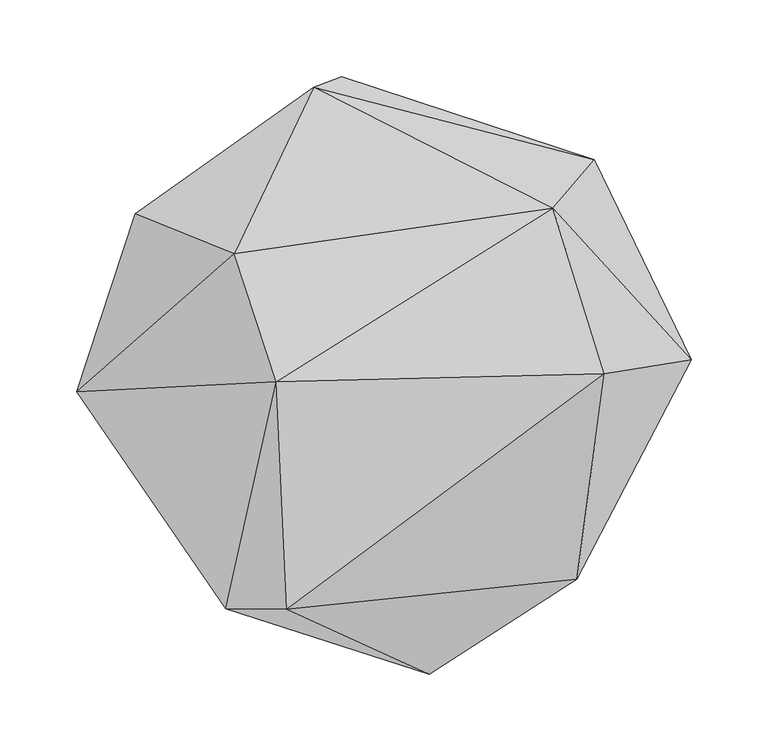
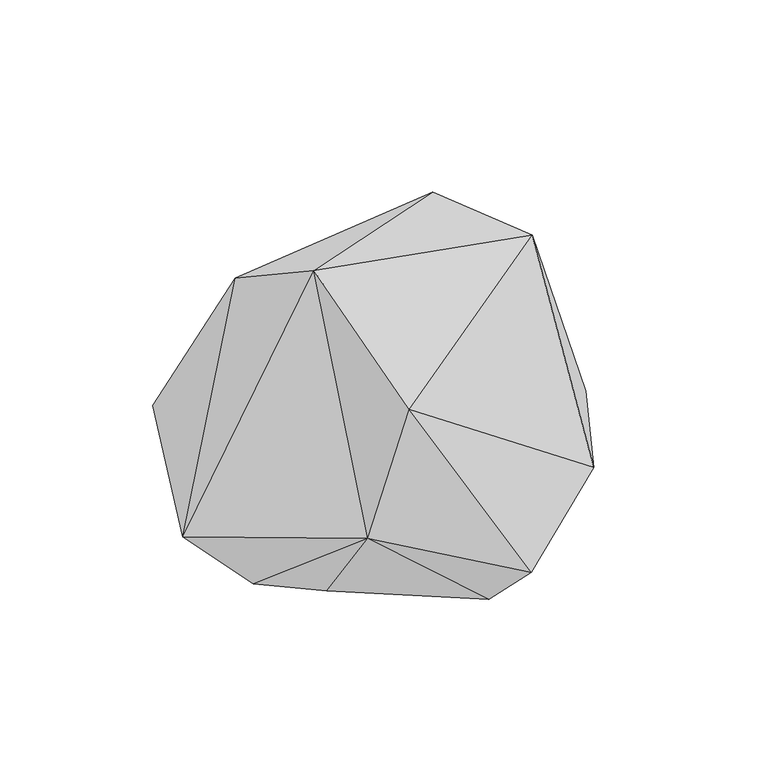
"""IFC4 building model written with IfcOpenShell, lengths in millimetres: geographic element geometry, Enscape AssetDefinition - Flower 086 Cross-leaved Heath : Enscape AssetDefinition - Flower 086 Cross-leaved Heath."""

import ifcopenshell
import ifcopenshell.guid

model = None  # the IFC model being written
_history = None  # IfcOwnerHistory: only IFC2X3 demands one
_inside = {}  # id of a spatial element -> (the spatial element, [elements in it])
_under = {}  # id of a project, library or spatial element -> (it, [spatial elements below it])
_declared = {}  # id of a project -> (the project, [libraries it declares])
_typed = {}  # id of a type object -> (the type object, [elements of that type])
_made_of = {}  # id of a material, layer set ... -> (it, [elements and type objects made of it])


def new_model(schema):
    """Start an empty IFC model of exactly this schema.

    Asked for "IFC4X3", IfcOpenShell would pick the latest addendum, in which some entities
    have other attributes; the version numbers below select the first issue.
    IFC2X3 requires an IfcOwnerHistory on every rooted entity: one is made here for all.
    """
    global model, _history
    if schema == "IFC4X3":
        model = ifcopenshell.file(schema_version=(4, 3, 0, 0))
    else:
        model = ifcopenshell.file(schema=schema)
    _inside.clear()
    _under.clear()
    _declared.clear()
    _typed.clear()
    _made_of.clear()
    _history = None
    if model.schema == "IFC2X3":
        org = make("IfcOrganization", Name="unknown")
        user = make(
            "IfcPersonAndOrganization",
            ThePerson=make("IfcPerson", FamilyName="unknown"),
            TheOrganization=org,
        )
        app = make(
            "IfcApplication",
            ApplicationDeveloper=org,
            Version="unknown",
            ApplicationFullName="unknown",
            ApplicationIdentifier="unknown",
        )
        _history = make(
            "IfcOwnerHistory",
            OwningUser=user,
            OwningApplication=app,
            ChangeAction="ADDED",
            CreationDate=0,
        )
    return model


def make(cls, **values):
    """One entity of the class cls with the attributes given. An attribute that is None is left unset."""
    return model.create_entity(
        cls, **{name: value for name, value in values.items() if value is not None}
    )


def rooted(cls, **values):
    """An entity with a GlobalId (a new one), such as an element, a storey or a relation."""
    return make(cls, GlobalId=ifcopenshell.guid.new(), OwnerHistory=_history, **values)


def si_unit(unit_type, name, prefix=None):
    """IfcSIUnit, for example si_unit("LENGTHUNIT", "METRE", prefix="MILLI")."""
    return make("IfcSIUnit", UnitType=unit_type, Prefix=prefix, Name=name)


def assignment(units):
    """IfcUnitAssignment: the units of a project."""
    return None if units is None else make("IfcUnitAssignment", Units=units)


def point(xyz):
    """IfcCartesianPoint."""
    return None if xyz is None else make("IfcCartesianPoint", Coordinates=xyz)


def direction(xyz):
    """IfcDirection."""
    return None if xyz is None else make("IfcDirection", DirectionRatios=xyz)


def frame(location, z_axis=None, x_axis=None):
    """IfcAxis2Placement3D, a coordinate frame: its origin and axes. An axis left out is left unset."""
    return make(
        "IfcAxis2Placement3D",
        Location=point(location),
        Axis=direction(z_axis),
        RefDirection=direction(x_axis),
    )


def origin():
    """The frame at (0, 0, 0) with its axes left unset."""
    return frame((0.0, 0.0, 0.0))


def place(relative_to, where):
    """IfcLocalPlacement: puts the frame where relative to a parent placement (None: the world)."""
    return make(
        "IfcLocalPlacement", PlacementRelTo=relative_to, RelativePlacement=where
    )


def context(
    kind, dimensions, precision=None, world=None, true_north=None, identifier=None
):
    """IfcGeometricRepresentationContext, for example the 3D "Model" context."""
    return make(
        "IfcGeometricRepresentationContext",
        ContextIdentifier=identifier,
        ContextType=kind,
        CoordinateSpaceDimension=dimensions,
        Precision=precision,
        WorldCoordinateSystem=world,
        TrueNorth=true_north,
    )


def project(units=None, contexts=None):
    """IfcProject with its units and contexts."""
    return rooted(
        "IfcProject",
        Name="project",
        RepresentationContexts=contexts,
        UnitsInContext=assignment(units),
    )


def spatial(cls, under=None, at=None, **own):
    """A site, building, storey or space (cls), placed at a placement, below another one or the project."""
    s = rooted(cls, ObjectPlacement=at, **own)
    if under is not None:
        _under.setdefault(under.id(), (under, []))[1].append(s)
    return s


def point_list(points):
    """IfcCartesianPointList2D or 3D."""
    cls = (
        "IfcCartesianPointList2D" if len(points[0]) == 2 else "IfcCartesianPointList3D"
    )
    return make(cls, CoordList=points)


def triangles(points, corners, closed=None, point_numbers=None):
    """IfcTriangulatedFaceSet: each triangle names its three corners, points numbered from 1."""
    return make(
        "IfcTriangulatedFaceSet",
        Coordinates=point_list(points),
        Closed=closed,
        CoordIndex=corners,
        PnIndex=point_numbers,
    )


def shape(context_of_items, identifier, shape_type, items):
    """IfcShapeRepresentation: the items that make up one representation, for example the "Body"."""
    return make(
        "IfcShapeRepresentation",
        ContextOfItems=context_of_items,
        RepresentationIdentifier=identifier,
        RepresentationType=shape_type,
        Items=items,
    )


def source(mapping_origin, context_of_items, identifier, shape_type, items):
    """IfcRepresentationMap: a shape defined once, which mapped items show again and again."""
    return make(
        "IfcRepresentationMap",
        MappingOrigin=mapping_origin,
        MappedRepresentation=shape(context_of_items, identifier, shape_type, items),
    )


def transform(
    local_origin,
    x_axis=None,
    y_axis=None,
    z_axis=None,
    scale=None,
    scale2=None,
    scale3=None,
    uniform=True,
):
    """IfcCartesianTransformationOperator3D, or its non-uniform kind. x_axis, y_axis, z_axis: its Axis1, 2, 3."""
    if uniform:
        return make(
            "IfcCartesianTransformationOperator3D",
            Axis1=direction(x_axis),
            Axis2=direction(y_axis),
            LocalOrigin=point(local_origin),
            Scale=scale,
            Axis3=direction(z_axis),
        )
    return make(
        "IfcCartesianTransformationOperator3DnonUniform",
        Axis1=direction(x_axis),
        Axis2=direction(y_axis),
        LocalOrigin=point(local_origin),
        Scale=scale,
        Axis3=direction(z_axis),
        Scale2=scale2,
        Scale3=scale3,
    )


def mapped(mapping_source, mapping_target):
    """IfcMappedItem: shows the shape of a source again, moved by a transform."""
    return make(
        "IfcMappedItem", MappingSource=mapping_source, MappingTarget=mapping_target
    )


def made_of(thing, what):
    """Note that an element or type object is made of a material, layer set ...; save() writes the relation."""
    if what is not None:
        _made_of.setdefault(what.id(), (what, []))[1].append(thing)
    return thing


def element(
    cls,
    number,
    at=None,
    inside=None,
    cuts=None,
    type_object=None,
    material=None,
    context=None,
    identifier="Body",
    shape_type=None,
    held_by="IfcProductDefinitionShape",
    body=None,
    shapes=None,
    **own,
):
    """One element of the class cls, such as IfcWall. Its Tag is "e" and its number.

    at: its placement. inside: the storey or other place that contains it. cuts: it is an
    opening in that element (IfcRelVoidsElement). A single representation is given by context,
    identifier, shape_type and body (its items); several are given by shapes. held_by: the class
    of the entity that holds the representations. save() writes the other relations.
    """
    e = rooted(cls, Tag="e%d" % number, ObjectPlacement=at, **own)
    if body is not None:
        shapes = [shape(context, identifier, shape_type, body)]
    if shapes is not None:
        e.Representation = make(held_by, Representations=shapes)
    if inside is not None:
        _inside.setdefault(inside.id(), (inside, []))[1].append(e)
    if cuts is not None:
        rooted(
            "IfcRelVoidsElement", RelatingBuildingElement=cuts, RelatedOpeningElement=e
        )
    if type_object is not None:
        _typed.setdefault(type_object.id(), (type_object, []))[1].append(e)
    return made_of(e, material)


def aggregate(whole, parts):
    """IfcRelAggregates: a whole, such as a stair, and the parts it consists of."""
    return rooted("IfcRelAggregates", RelatingObject=whole, RelatedObjects=parts)


def save(model, path):
    """Write the relations noted so far, then the file.

    IfcRelAggregates (storeys below a building ...), IfcRelContainedInSpatialStructure (elements
    in a storey), IfcRelDefinesByType, IfcRelAssociatesMaterial and IfcRelDeclares: one each for
    every whole, place, type object, material and project.
    """
    for whole, parts in _under.values():
        aggregate(whole, parts)
    for where, things in _inside.values():
        rooted(
            "IfcRelContainedInSpatialStructure",
            RelatedElements=things,
            RelatingStructure=where,
        )
    for kind, things in _typed.values():
        rooted("IfcRelDefinesByType", RelatedObjects=things, RelatingType=kind)
    for what, things in _made_of.values():
        rooted("IfcRelAssociatesMaterial", RelatedObjects=things, RelatingMaterial=what)
    for by, libraries in _declared.values():
        rooted("IfcRelDeclares", RelatingContext=by, RelatedDefinitions=libraries)
    model.write(path)


def geographic_element_6c98dd67(model_context):
    return source(origin(), model_context, "Body", "Tessellation", [
        triangles([(140.3370008, -0.512, 0.081), (122.2330005, 73.6270012, 0.0), (141.453993, 134.6649997, 98.8510066), (48.0139979, 112.6049999, 0.0), (-4.9440001, 129.6260086, 0.081), (-41.7230029, 182.045992, 108.1349966), (21.0709999, -151.9729912, 0.0), (-139.0130083, -35.0859988, 0.875), (-84.996002, 92.2150017, 0.0), (-23.3330007, 188.8020113, 52.8919977), (-93.5150042, 73.3510051, 231.4399974), (-158.2289865, 99.2230042, 108.1349966), (-196.4200057, -16.7100004, 57.7459983), (-99.2230042, -158.2289865, 108.1349966), (-90.2229994, -73.5630016, 0.0), (33.6979999, -201.1490048, 52.8919977), (-59.2450029, -158.5949889, 225.8650107), (114.249994, 102.7900012, 228.8930054), (-66.1699981, -10.184999, 280.1800093), (129.7910058, -139.126001, 88.8329952), (204.6830006, 4.053, 53.6519986), (147.8440008, -4.983, 238.6730043)], [[21, 18, 22], [21, 22, 20], [7, 21, 20], [7, 20, 16], [16, 20, 17], [17, 20, 22], [17, 22, 19], [18, 11, 19], [22, 18, 19], [14, 15, 7], [14, 16, 17], [14, 17, 19], [7, 16, 14], [7, 15, 8], [14, 8, 15], [13, 8, 14], [13, 9, 8], [13, 14, 19], [11, 13, 19], [12, 13, 11], [6, 12, 11], [18, 6, 11], [13, 10, 9], [10, 13, 12], [10, 12, 6], [5, 8, 9], [5, 9, 10], [8, 5, 4], [7, 8, 4], [3, 5, 10], [10, 6, 3], [21, 3, 18], [3, 6, 18], [3, 4, 5], [4, 2, 7], [3, 2, 4], [2, 3, 21], [2, 1, 7], [1, 2, 21], [1, 21, 7]]),
    ])


if __name__ == "__main__":
    model = new_model("IFC4")
    model_context = context("Model", 3, world=origin())
    ifc_project = project(units=[si_unit("LENGTHUNIT", "METRE", prefix="MILLI")], contexts=[model_context])
    site = spatial("IfcSite", under=ifc_project)
    building = spatial("IfcBuilding", under=site)
    placement = place(None, origin())
    geographic_element_shape = geographic_element_6c98dd67(model_context)
    element("IfcGeographicElement", 1, ObjectType="Enscape AssetDefinition - Flower 086 Cross-leaved Heath : Enscape AssetDefinition - Flower 086 Cross-leaved Heath", at=placement, inside=building, context=model_context, shape_type="MappedRepresentation", body=[
        mapped(geographic_element_shape, transform((0.0, 0.0, 0.0), x_axis=(1.0, 0.0, 0.0), y_axis=(0.0, 1.0, 0.0), z_axis=(0.0, 0.0, 1.0))),
    ])
    save(model, "model.ifc")
